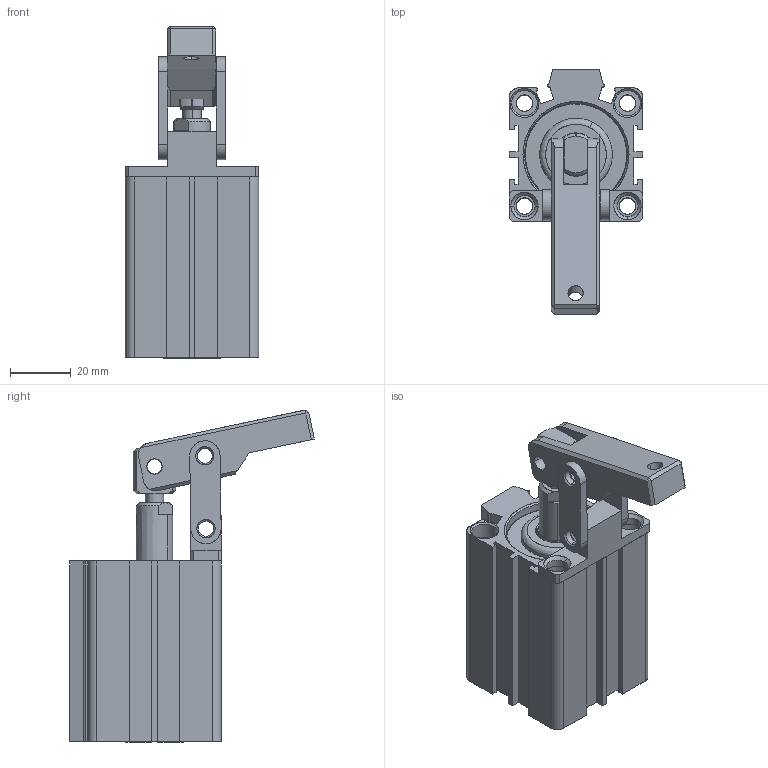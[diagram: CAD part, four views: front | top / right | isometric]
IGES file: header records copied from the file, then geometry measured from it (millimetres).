
Start section: SolidWorks IGES file using analytic representation for surfaces
Global section: file name: C:\Users\cagdas\Desktop\MSA_32.IGS; native system: SolidWorks 2018; preprocessor: SolidWorks 2018; author: cagdas; date: 181210.114430; units: millimetre
Bounding box: 44 x 80.76 x 109.59 mm (x, y, z)
Surface area: 48816.2 mm2 (no closed solid volume)
Topology: 0 solids, 0 shells, 436 faces, 7046 edges, 7046 vertices
Faces by surface type: revolution 272, bspline 164
